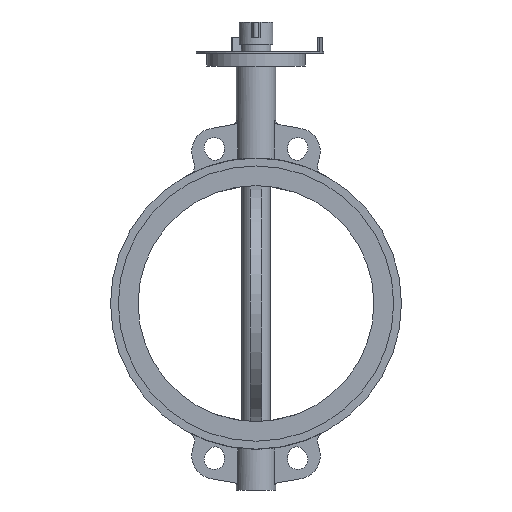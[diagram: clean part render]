
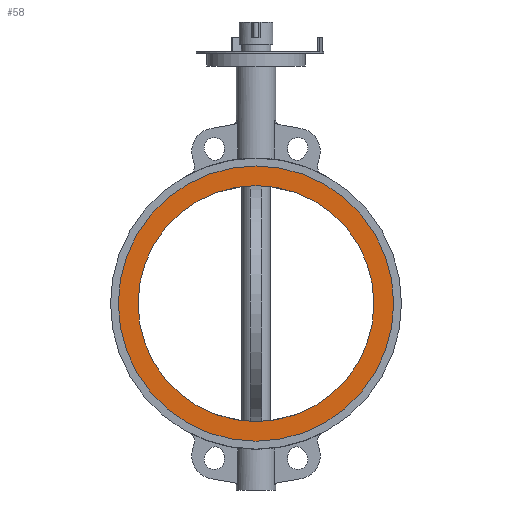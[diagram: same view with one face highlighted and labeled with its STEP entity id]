
A CAD part, left-side view. The second image highlights one B-rep face of the part: STEP entity #58.
In plain terms, the highlighted planar face has unit normal (-1, 0, 0).
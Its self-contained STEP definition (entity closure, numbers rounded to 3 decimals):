
#58=ADVANCED_FACE('',(#7321,#7323),#7325,.F.);
#7321=FACE_BOUND('',#7322,.T.);
#7322=EDGE_LOOP('',(#13506));
#7323=FACE_BOUND('',#7324,.T.);
#7324=EDGE_LOOP('',(#13507));
#7325=PLANE('',#7326);
#7326=AXIS2_PLACEMENT_3D('',#7327,#7328,#7329);
#7327=CARTESIAN_POINT('',(-34.,0.,0.));
#7328=DIRECTION('',(1.,0.,0.));
#7329=DIRECTION('',(0.,1.,0.));
#13506=ORIENTED_EDGE('',*,*,#18181,.T.);
#13507=ORIENTED_EDGE('',*,*,#18182,.T.);
#18181=EDGE_CURVE('',#20550,#20550,#20551,.F.);
#18182=EDGE_CURVE('',#20552,#20552,#20553,.T.);
#20550=VERTEX_POINT('',#24460);
#20551=CIRCLE('',#24461,175.);
#20552=VERTEX_POINT('',#24465);
#20553=CIRCLE('',#24466,150.);
#24460=CARTESIAN_POINT('',(-34.,175.,0.));
#24461=AXIS2_PLACEMENT_3D('',#24462,#24463,#24464);
#24462=CARTESIAN_POINT('',(-34.,0.,0.));
#24463=DIRECTION('',(1.,0.,0.));
#24464=DIRECTION('',(0.,1.,0.));
#24465=CARTESIAN_POINT('',(-34.,150.,0.));
#24466=AXIS2_PLACEMENT_3D('',#24467,#24468,#24469);
#24467=CARTESIAN_POINT('',(-34.,0.,0.));
#24468=DIRECTION('',(1.,0.,0.));
#24469=DIRECTION('',(0.,1.,0.));
